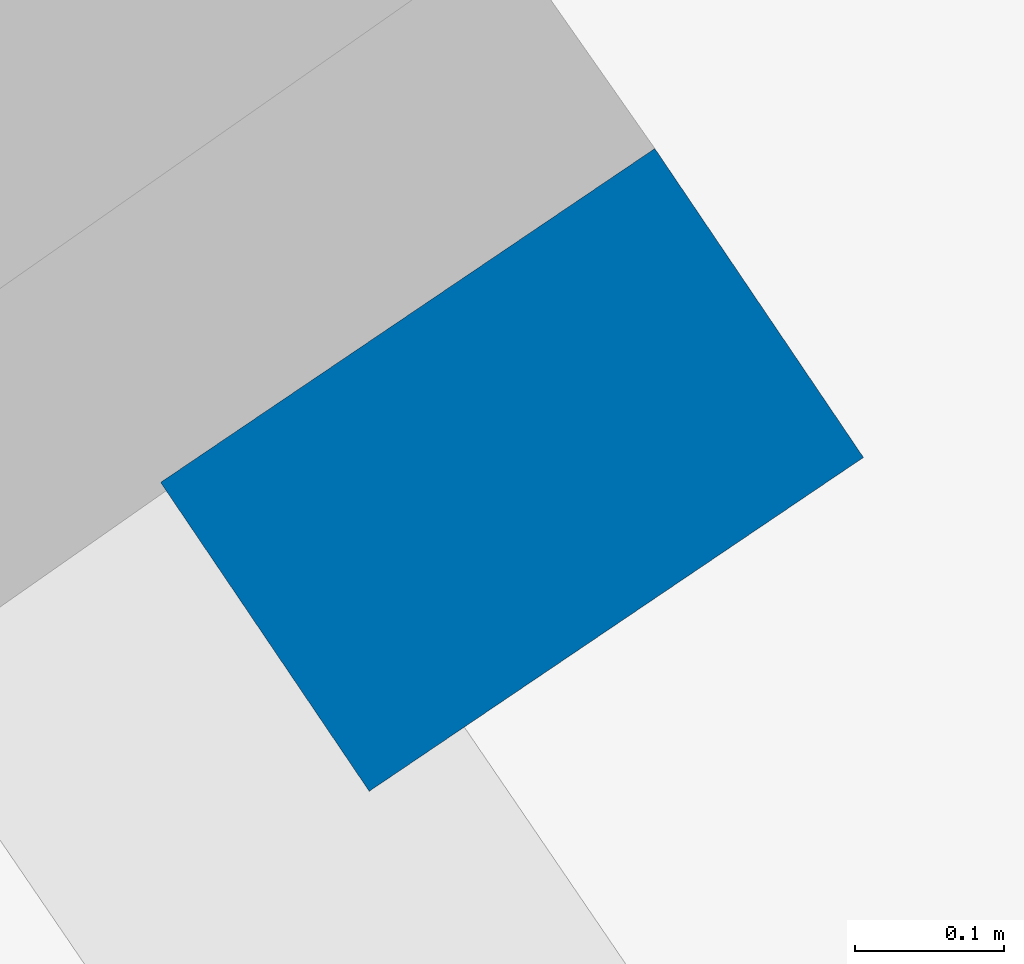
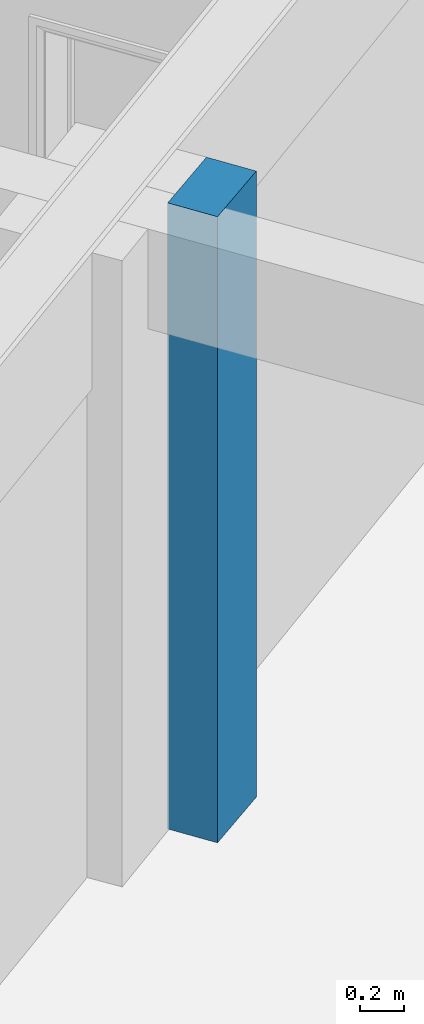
# One storey, part 74 of 112: 1 wall.
"""IFC2X3 building model written with IfcOpenShell, lengths in millimetres."""

from ifc_helpers import new_model, entity, si_unit, converted_unit, derived_unit, direction, frame, frame_2d, origin, place, context, subcontext, project, spatial, rectangle, extrude, material, layer, layer_set, layer_usage, type_object, element, save


model = new_model("IFC2X3")

# Units and contexts
model_context = context("Model", 3, precision=0.01, world=origin(), true_north=direction((6.123031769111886e-17, 1.0)))
body_context = subcontext(model_context, "Body", "Model", "MODEL_VIEW")
ifc_project = project(units=[si_unit("LENGTHUNIT", "METRE", prefix="MILLI"), si_unit("AREAUNIT", "SQUARE_METRE"), si_unit("VOLUMEUNIT", "CUBIC_METRE"), converted_unit("PLANEANGLEUNIT", "DEGREE", entity("IfcRatioMeasure", 0.017453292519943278), si_unit("PLANEANGLEUNIT", "RADIAN"), dimensions=[0, 0, 0, 0, 0, 0, 0]), si_unit("MASSUNIT", "GRAM", prefix="KILO"), derived_unit("MASSDENSITYUNIT", [(si_unit("MASSUNIT", "GRAM", prefix="KILO"), 1), (si_unit("LENGTHUNIT", "METRE"), -3)]), derived_unit("MOMENTOFINERTIAUNIT", [(si_unit("LENGTHUNIT", "METRE"), 4)]), si_unit("TIMEUNIT", "SECOND"), si_unit("FREQUENCYUNIT", "HERTZ"), si_unit("THERMODYNAMICTEMPERATUREUNIT", "DEGREE_CELSIUS"), derived_unit("THERMALTRANSMITTANCEUNIT", [(si_unit("MASSUNIT", "GRAM", prefix="KILO"), 1), (si_unit("THERMODYNAMICTEMPERATUREUNIT", "KELVIN"), -1), (si_unit("TIMEUNIT", "SECOND"), -3)]), derived_unit("THERMALCONDUCTANCEUNIT", [(si_unit("MASSUNIT", "GRAM", prefix="KILO"), 1), (si_unit("LENGTHUNIT", "METRE"), 1), (si_unit("THERMODYNAMICTEMPERATUREUNIT", "KELVIN"), -1), (si_unit("TIMEUNIT", "SECOND"), -3)]), derived_unit("VOLUMETRICFLOWRATEUNIT", [(si_unit("LENGTHUNIT", "METRE"), 3), (si_unit("TIMEUNIT", "SECOND"), -1)]), derived_unit("MASSFLOWRATEUNIT", [(si_unit("MASSUNIT", "GRAM", prefix="KILO"), 1), (si_unit("TIMEUNIT", "SECOND"), -1)]), derived_unit("ROTATIONALFREQUENCYUNIT", [(si_unit("TIMEUNIT", "SECOND"), -1)]), si_unit("ELECTRICCURRENTUNIT", "AMPERE"), si_unit("ELECTRICVOLTAGEUNIT", "VOLT"), si_unit("POWERUNIT", "WATT"), converted_unit("FORCEUNIT", "KIP", entity("IfcRatioMeasure", 2.088543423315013e-05), si_unit("FORCEUNIT", "NEWTON"), dimensions=[1, 1, -2, 0, 0, 0, 0]), si_unit("ILLUMINANCEUNIT", "LUX"), si_unit("LUMINOUSFLUXUNIT", "LUMEN"), si_unit("LUMINOUSINTENSITYUNIT", "CANDELA"), derived_unit("USERDEFINED", [(si_unit("MASSUNIT", "GRAM", prefix="KILO"), -1), (si_unit("LENGTHUNIT", "METRE"), -2), (si_unit("TIMEUNIT", "SECOND"), 3), (si_unit("LUMINOUSFLUXUNIT", "LUMEN"), 1)]), derived_unit("USERDEFINED", [(si_unit("MASSUNIT", "GRAM", prefix="KILO"), 1), (si_unit("LENGTHUNIT", "METRE"), 3), (si_unit("TIMEUNIT", "SECOND"), -3), (si_unit("ELECTRICCURRENTUNIT", "AMPERE"), -2)]), derived_unit("USERDEFINED", [(si_unit("LENGTHUNIT", "METRE"), 2), (si_unit("TIMEUNIT", "SECOND"), -2)]), derived_unit("SOUNDPOWERUNIT", [(si_unit("MASSUNIT", "GRAM", prefix="KILO"), 1), (si_unit("LENGTHUNIT", "METRE"), 2), (si_unit("TIMEUNIT", "SECOND"), -3)]), derived_unit("SOUNDPRESSUREUNIT", [(si_unit("MASSUNIT", "GRAM", prefix="KILO"), 1), (si_unit("LENGTHUNIT", "METRE"), -1), (si_unit("TIMEUNIT", "SECOND"), -2)]), derived_unit("LINEARVELOCITYUNIT", [(si_unit("LENGTHUNIT", "METRE"), 1), (si_unit("TIMEUNIT", "SECOND"), -1)]), si_unit("PRESSUREUNIT", "PASCAL"), derived_unit("USERDEFINED", [(si_unit("LENGTHUNIT", "METRE"), -2), (si_unit("MASSUNIT", "GRAM", prefix="KILO"), 1), (si_unit("TIMEUNIT", "SECOND"), -2)]), derived_unit("LINEARFORCEUNIT", [(si_unit("MASSUNIT", "GRAM", prefix="KILO"), 1), (si_unit("LENGTHUNIT", "METRE"), 1), (si_unit("TIMEUNIT", "SECOND"), -2), (si_unit("LENGTHUNIT", "METRE"), -1)]), derived_unit("PLANARFORCEUNIT", [(si_unit("MASSUNIT", "GRAM", prefix="KILO"), 1), (si_unit("LENGTHUNIT", "METRE"), 1), (si_unit("TIMEUNIT", "SECOND"), -2), (si_unit("LENGTHUNIT", "METRE"), -2)]), derived_unit("SPECIFICHEATCAPACITYUNIT", [(si_unit("LENGTHUNIT", "METRE"), 2), (si_unit("TIMEUNIT", "SECOND"), -2), (si_unit("THERMODYNAMICTEMPERATUREUNIT", "KELVIN"), -1)]), derived_unit("VAPORPERMEABILITYUNIT", [(si_unit("TIMEUNIT", "SECOND"), 1), (si_unit("LENGTHUNIT", "METRE"), -1)]), derived_unit("DYNAMICVISCOSITYUNIT", [(si_unit("MASSUNIT", "GRAM", prefix="KILO"), 1), (si_unit("LENGTHUNIT", "METRE"), -1), (si_unit("TIMEUNIT", "SECOND"), -1)]), derived_unit("THERMALEXPANSIONCOEFFICIENTUNIT", [(si_unit("THERMODYNAMICTEMPERATUREUNIT", "KELVIN"), -1)])], contexts=[model_context])

# Site, building, storey
site_placement = place(None, frame((0.0, 0.0, 0.0), z_axis=(0.0, 0.0, 1.0), x_axis=(0.8191520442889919, 0.5735764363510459, 0.0)))
site = spatial("IfcSite", under=ifc_project, at=site_placement, Name="Default", CompositionType="ELEMENT")
building_placement = place(site_placement, origin())
building = spatial("IfcBuilding", under=site, at=building_placement, CompositionType="ELEMENT")
storey_placement = place(building_placement, frame((0.0, 0.0, -3600.0)))
storey = spatial("IfcBuildingStorey", under=building, at=storey_placement, Name="0.UG -3.60", CompositionType="ELEMENT", Elevation=-3600.0000000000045)

# Wall
ifc_material = material(Name="Analytical Wall Surface_CJC")
ifc_layer = layer(ifc_material, 400.0)
ifc_layer_set = layer_set([ifc_layer], Name="Basic Wall:Wand_Innen_40")
ifc_layer_usage = layer_usage(ifc_layer_set, "AXIS2", "POSITIVE", -200.0)
wall_type = type_object("IfcWallType", Name="Basic Wall:Wand_Innen_40", PredefinedType="STANDARD", material=ifc_layer_set)
wall_placement = place(storey_placement, frame((-210142.96153680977, 157424.71303051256, 0.0), z_axis=(0.0, 0.0, 1.0), x_axis=(0.016770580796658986, 0.999859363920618, 0.0)))
element("IfcWallStandardCase", 1, at=wall_placement, inside=storey, type_object=wall_type, material=ifc_layer_usage, Name="Basic Wall:Wand_Innen_40", ObjectType="Basic Wall:Wand_Innen_40", context=body_context, shape_type="SweptSolid", body=[
    extrude(rectangle(XDim=250.0351639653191, YDim=399.9999999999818, at=frame_2d((125.01758198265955, -8.22808488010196e-12), x_axis=(-1.0, 0.0))), origin(), (0.0, 0.0, 1.0), 3450.0),
])

save(model, "model.ifc")
